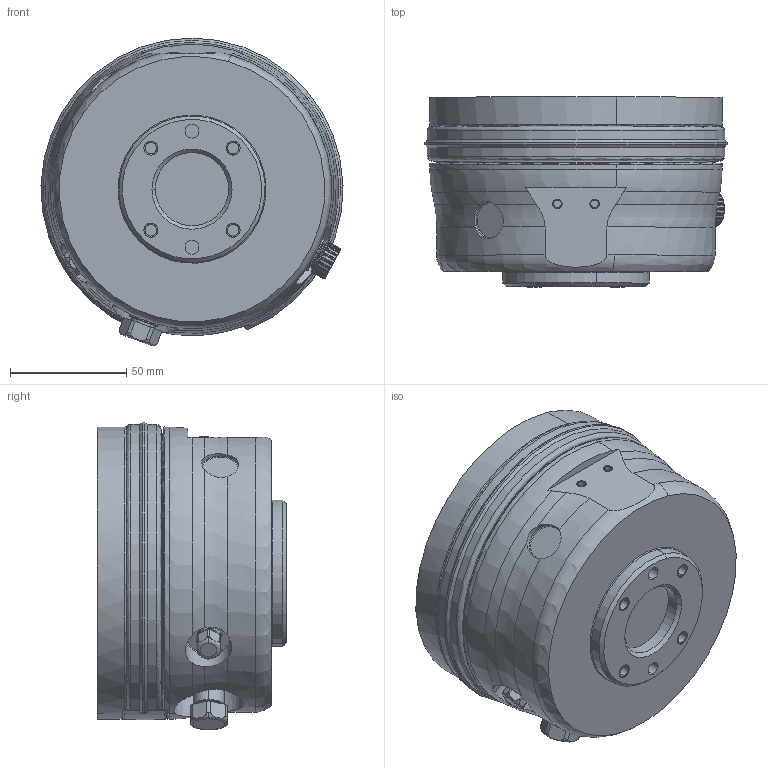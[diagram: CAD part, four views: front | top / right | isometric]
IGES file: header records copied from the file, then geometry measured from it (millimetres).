
Start section:  PTC IGES file: taxis_view_yr-n1-06vxc12-a00_.igs
Global section: file name: taxis_view_yr-n1-06vxc12-a00_.igs; native system: Creo Parametric by PTC Inc.; preprocessor: 2021072; author: yoizumi; organization: Unknown; date: 20250214.091033; units: millimetre
Bounding box: 129.97 x 81.68 x 132.46 mm (x, y, z)
Volume: 894799.2 mm3; surface area: 81938.9 mm2
Topology: 2 solids, 12 shells, 775 faces, 2214 edges, 1613 vertices
Faces by surface type: revolution 486, bspline 289
